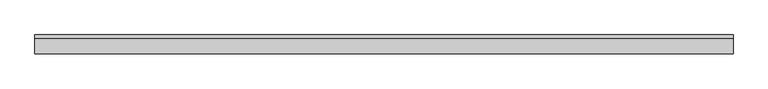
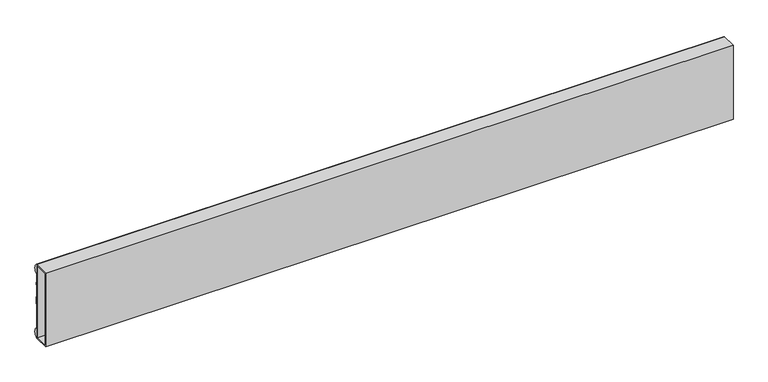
"""IFC4 building model written with IfcOpenShell, lengths in millimetres: proxy geometry, BIMHealth-Dado_Double_Trunking-LOD2A-v1 : BIMHealth-Dado_Double_Trunking-LOD2A-v1."""

import ifcopenshell
import ifcopenshell.guid

model = None  # the IFC model being written
_history = None  # IfcOwnerHistory: only IFC2X3 demands one
_inside = {}  # id of a spatial element -> (the spatial element, [elements in it])
_under = {}  # id of a project, library or spatial element -> (it, [spatial elements below it])
_declared = {}  # id of a project -> (the project, [libraries it declares])
_typed = {}  # id of a type object -> (the type object, [elements of that type])
_made_of = {}  # id of a material, layer set ... -> (it, [elements and type objects made of it])


def new_model(schema):
    """Start an empty IFC model of exactly this schema.

    Asked for "IFC4X3", IfcOpenShell would pick the latest addendum, in which some entities
    have other attributes; the version numbers below select the first issue.
    IFC2X3 requires an IfcOwnerHistory on every rooted entity: one is made here for all.
    """
    global model, _history
    if schema == "IFC4X3":
        model = ifcopenshell.file(schema_version=(4, 3, 0, 0))
    else:
        model = ifcopenshell.file(schema=schema)
    _inside.clear()
    _under.clear()
    _declared.clear()
    _typed.clear()
    _made_of.clear()
    _history = None
    if model.schema == "IFC2X3":
        org = make("IfcOrganization", Name="unknown")
        user = make(
            "IfcPersonAndOrganization",
            ThePerson=make("IfcPerson", FamilyName="unknown"),
            TheOrganization=org,
        )
        app = make(
            "IfcApplication",
            ApplicationDeveloper=org,
            Version="unknown",
            ApplicationFullName="unknown",
            ApplicationIdentifier="unknown",
        )
        _history = make(
            "IfcOwnerHistory",
            OwningUser=user,
            OwningApplication=app,
            ChangeAction="ADDED",
            CreationDate=0,
        )
    return model


def make(cls, **values):
    """One entity of the class cls with the attributes given. An attribute that is None is left unset."""
    return model.create_entity(
        cls, **{name: value for name, value in values.items() if value is not None}
    )


def rooted(cls, **values):
    """An entity with a GlobalId (a new one), such as an element, a storey or a relation."""
    return make(cls, GlobalId=ifcopenshell.guid.new(), OwnerHistory=_history, **values)


def si_unit(unit_type, name, prefix=None):
    """IfcSIUnit, for example si_unit("LENGTHUNIT", "METRE", prefix="MILLI")."""
    return make("IfcSIUnit", UnitType=unit_type, Prefix=prefix, Name=name)


def assignment(units):
    """IfcUnitAssignment: the units of a project."""
    return None if units is None else make("IfcUnitAssignment", Units=units)


def point(xyz):
    """IfcCartesianPoint."""
    return None if xyz is None else make("IfcCartesianPoint", Coordinates=xyz)


def direction(xyz):
    """IfcDirection."""
    return None if xyz is None else make("IfcDirection", DirectionRatios=xyz)


def frame(location, z_axis=None, x_axis=None):
    """IfcAxis2Placement3D, a coordinate frame: its origin and axes. An axis left out is left unset."""
    return make(
        "IfcAxis2Placement3D",
        Location=point(location),
        Axis=direction(z_axis),
        RefDirection=direction(x_axis),
    )


def frame_2d(location, x_axis=None):
    """IfcAxis2Placement2D, a coordinate frame in the plane: its origin and x axis."""
    return make(
        "IfcAxis2Placement2D", Location=point(location), RefDirection=direction(x_axis)
    )


def origin():
    """The frame at (0, 0, 0) with its axes left unset."""
    return frame((0.0, 0.0, 0.0))


def place(relative_to, where):
    """IfcLocalPlacement: puts the frame where relative to a parent placement (None: the world)."""
    return make(
        "IfcLocalPlacement", PlacementRelTo=relative_to, RelativePlacement=where
    )


def context(
    kind, dimensions, precision=None, world=None, true_north=None, identifier=None
):
    """IfcGeometricRepresentationContext, for example the 3D "Model" context."""
    return make(
        "IfcGeometricRepresentationContext",
        ContextIdentifier=identifier,
        ContextType=kind,
        CoordinateSpaceDimension=dimensions,
        Precision=precision,
        WorldCoordinateSystem=world,
        TrueNorth=true_north,
    )


def project(units=None, contexts=None):
    """IfcProject with its units and contexts."""
    return rooted(
        "IfcProject",
        Name="project",
        RepresentationContexts=contexts,
        UnitsInContext=assignment(units),
    )


def spatial(cls, under=None, at=None, **own):
    """A site, building, storey or space (cls), placed at a placement, below another one or the project."""
    s = rooted(cls, ObjectPlacement=at, **own)
    if under is not None:
        _under.setdefault(under.id(), (under, []))[1].append(s)
    return s


def polyline(points):
    """IfcPolyline through the points."""
    return make("IfcPolyline", Points=[point(p) for p in points])


def circle_curve(where, radius):
    """IfcCircle in the frame where."""
    return make("IfcCircle", Position=where, Radius=radius)


def trimmed(basis, trim1, trim2, sense, master):
    """IfcTrimmedCurve: the piece of a basis curve between two trims."""
    return make(
        "IfcTrimmedCurve",
        BasisCurve=basis,
        Trim1=trim1,
        Trim2=trim2,
        SenseAgreement=sense,
        MasterRepresentation=master,
    )


def segment(curve, same_sense, transition):
    """IfcCompositeCurveSegment."""
    return make(
        "IfcCompositeCurveSegment",
        Transition=transition,
        SameSense=same_sense,
        ParentCurve=curve,
    )


def composite_curve(segments, self_intersect=None):
    """IfcCompositeCurve: segments joined end to end."""
    return make("IfcCompositeCurve", Segments=segments, SelfIntersect=self_intersect)


def outline(outer, holes=None, kind="AREA"):
    """IfcArbitraryClosedProfileDef: a profile drawn as a closed curve; with holes, ...WithVoids."""
    if holes is None:
        return make("IfcArbitraryClosedProfileDef", ProfileType=kind, OuterCurve=outer)
    return make(
        "IfcArbitraryProfileDefWithVoids",
        ProfileType=kind,
        OuterCurve=outer,
        InnerCurves=holes,
    )


def extrude(swept, where, along, depth):
    """IfcExtrudedAreaSolid: the profile swept, set in the frame where, extruded along a direction by depth."""
    return make(
        "IfcExtrudedAreaSolid",
        SweptArea=swept,
        Position=where,
        ExtrudedDirection=direction(along),
        Depth=depth,
    )


def shape(context_of_items, identifier, shape_type, items):
    """IfcShapeRepresentation: the items that make up one representation, for example the "Body"."""
    return make(
        "IfcShapeRepresentation",
        ContextOfItems=context_of_items,
        RepresentationIdentifier=identifier,
        RepresentationType=shape_type,
        Items=items,
    )


def source(mapping_origin, context_of_items, identifier, shape_type, items):
    """IfcRepresentationMap: a shape defined once, which mapped items show again and again."""
    return make(
        "IfcRepresentationMap",
        MappingOrigin=mapping_origin,
        MappedRepresentation=shape(context_of_items, identifier, shape_type, items),
    )


def transform(
    local_origin,
    x_axis=None,
    y_axis=None,
    z_axis=None,
    scale=None,
    scale2=None,
    scale3=None,
    uniform=True,
):
    """IfcCartesianTransformationOperator3D, or its non-uniform kind. x_axis, y_axis, z_axis: its Axis1, 2, 3."""
    if uniform:
        return make(
            "IfcCartesianTransformationOperator3D",
            Axis1=direction(x_axis),
            Axis2=direction(y_axis),
            LocalOrigin=point(local_origin),
            Scale=scale,
            Axis3=direction(z_axis),
        )
    return make(
        "IfcCartesianTransformationOperator3DnonUniform",
        Axis1=direction(x_axis),
        Axis2=direction(y_axis),
        LocalOrigin=point(local_origin),
        Scale=scale,
        Axis3=direction(z_axis),
        Scale2=scale2,
        Scale3=scale3,
    )


def mapped(mapping_source, mapping_target):
    """IfcMappedItem: shows the shape of a source again, moved by a transform."""
    return make(
        "IfcMappedItem", MappingSource=mapping_source, MappingTarget=mapping_target
    )


def made_of(thing, what):
    """Note that an element or type object is made of a material, layer set ...; save() writes the relation."""
    if what is not None:
        _made_of.setdefault(what.id(), (what, []))[1].append(thing)
    return thing


def element(
    cls,
    number,
    at=None,
    inside=None,
    cuts=None,
    type_object=None,
    material=None,
    context=None,
    identifier="Body",
    shape_type=None,
    held_by="IfcProductDefinitionShape",
    body=None,
    shapes=None,
    **own,
):
    """One element of the class cls, such as IfcWall. Its Tag is "e" and its number.

    at: its placement. inside: the storey or other place that contains it. cuts: it is an
    opening in that element (IfcRelVoidsElement). A single representation is given by context,
    identifier, shape_type and body (its items); several are given by shapes. held_by: the class
    of the entity that holds the representations. save() writes the other relations.
    """
    e = rooted(cls, Tag="e%d" % number, ObjectPlacement=at, **own)
    if body is not None:
        shapes = [shape(context, identifier, shape_type, body)]
    if shapes is not None:
        e.Representation = make(held_by, Representations=shapes)
    if inside is not None:
        _inside.setdefault(inside.id(), (inside, []))[1].append(e)
    if cuts is not None:
        rooted(
            "IfcRelVoidsElement", RelatingBuildingElement=cuts, RelatedOpeningElement=e
        )
    if type_object is not None:
        _typed.setdefault(type_object.id(), (type_object, []))[1].append(e)
    return made_of(e, material)


def aggregate(whole, parts):
    """IfcRelAggregates: a whole, such as a stair, and the parts it consists of."""
    return rooted("IfcRelAggregates", RelatingObject=whole, RelatedObjects=parts)


def save(model, path):
    """Write the relations noted so far, then the file.

    IfcRelAggregates (storeys below a building ...), IfcRelContainedInSpatialStructure (elements
    in a storey), IfcRelDefinesByType, IfcRelAssociatesMaterial and IfcRelDeclares: one each for
    every whole, place, type object, material and project.
    """
    for whole, parts in _under.values():
        aggregate(whole, parts)
    for where, things in _inside.values():
        rooted(
            "IfcRelContainedInSpatialStructure",
            RelatedElements=things,
            RelatingStructure=where,
        )
    for kind, things in _typed.values():
        rooted("IfcRelDefinesByType", RelatedObjects=things, RelatingType=kind)
    for what, things in _made_of.values():
        rooted("IfcRelAssociatesMaterial", RelatedObjects=things, RelatingMaterial=what)
    for by, libraries in _declared.values():
        rooted("IfcRelDeclares", RelatingContext=by, RelatedDefinitions=libraries)
    model.write(path)


def generic_models_63d57467(model_context):
    return source(origin(), model_context, "Body", "SweptSolid", [
        extrude(outline(polyline([(2250.0, 2.0), (2250.0, 0.0), (0.0, 0.0), (0.0, 2.0), (2250.0, 2.0)])), frame((0.0, 0.0, 182.5), z_axis=(0.0, 0.0, 1.0), x_axis=(1.0, 0.0, 0.0)), (0.0, 0.0, 1.0), 10.0),
        extrude(outline(polyline([(2250.0, 2.0), (2250.0, 0.0), (0.0, 0.0), (0.0, 2.0), (2250.0, 2.0)])), frame((0.0, 0.0, 117.5483443), z_axis=(0.0, 0.0, 1.0), x_axis=(1.0, 0.0, 0.0)), (0.0, 0.0, 1.0), 25.0),
        extrude(outline(composite_curve([segment(polyline([(0.0, 220.0), (0.0, 255.0)]), True, "CONTINUOUS"), segment(trimmed(circle_curve(frame_2d((-9.7819278, 237.5)), 20.0483443), [point((0.0, 255.0))], [point((0.0, 220.0))], False, "CARTESIAN"), True, "CONTINUOUS")], self_intersect=False)), frame((0.0, 0.0, 0.0), z_axis=(1.0, 0.0, 0.0), x_axis=(0.0, 1.0, 0.0)), (0.0, 0.0, 1.0), 2250.0),
        extrude(outline(composite_curve([segment(polyline([(0.0, 0.0), (0.0, 35.0)]), True, "CONTINUOUS"), segment(trimmed(circle_curve(frame_2d((-9.7819278, 17.5)), 20.0483443), [point((0.0, 35.0))], [point((0.0, 0.0))], False, "CARTESIAN"), True, "CONTINUOUS")], self_intersect=False)), frame((0.0, 0.0, 0.0), z_axis=(1.0, 0.0, 0.0), x_axis=(0.0, 1.0, 0.0)), (0.0, 0.0, 1.0), 2250.0),
        extrude(outline(polyline([(0.0, 0.0), (-50.0, 0.0), (-50.0, 255.0), (0.0, 255.0), (0.0, 0.0)]), holes=[polyline([(-45.0, 250.0), (-45.0, 5.0), (-5.0, 5.0), (-5.0, 250.0), (-45.0, 250.0)])]), frame((0.0, 0.0, 0.0), z_axis=(1.0, 0.0, 0.0), x_axis=(0.0, 1.0, 0.0)), (0.0, 0.0, 1.0), 2250.0),
    ])


if __name__ == "__main__":
    model = new_model("IFC4")
    model_context = context("Model", 3, world=origin())
    ifc_project = project(units=[si_unit("LENGTHUNIT", "METRE", prefix="MILLI")], contexts=[model_context])
    site = spatial("IfcSite", under=ifc_project)
    building = spatial("IfcBuilding", under=site)
    placement = place(None, origin())
    generic_models_shape = generic_models_63d57467(model_context)
    element("IfcBuildingElementProxy", 1, Name="BIMHealth-Dado_Double_Trunking-LOD2A-v1 : BIMHealth-Dado_Double_Trunking-LOD2A-v1", ObjectType="BIMHealth-Dado_Double_Trunking-LOD2A-v1 : BIMHealth-Dado_Double_Trunking-LOD2A-v1", at=placement, inside=building, context=model_context, shape_type="MappedRepresentation", body=[
        mapped(generic_models_shape, transform((0.0, 0.0, 0.0), x_axis=(1.0, 0.0, 0.0), y_axis=(0.0, 1.0, 0.0), z_axis=(0.0, 0.0, 1.0))),
    ])
    save(model, "model.ifc")
